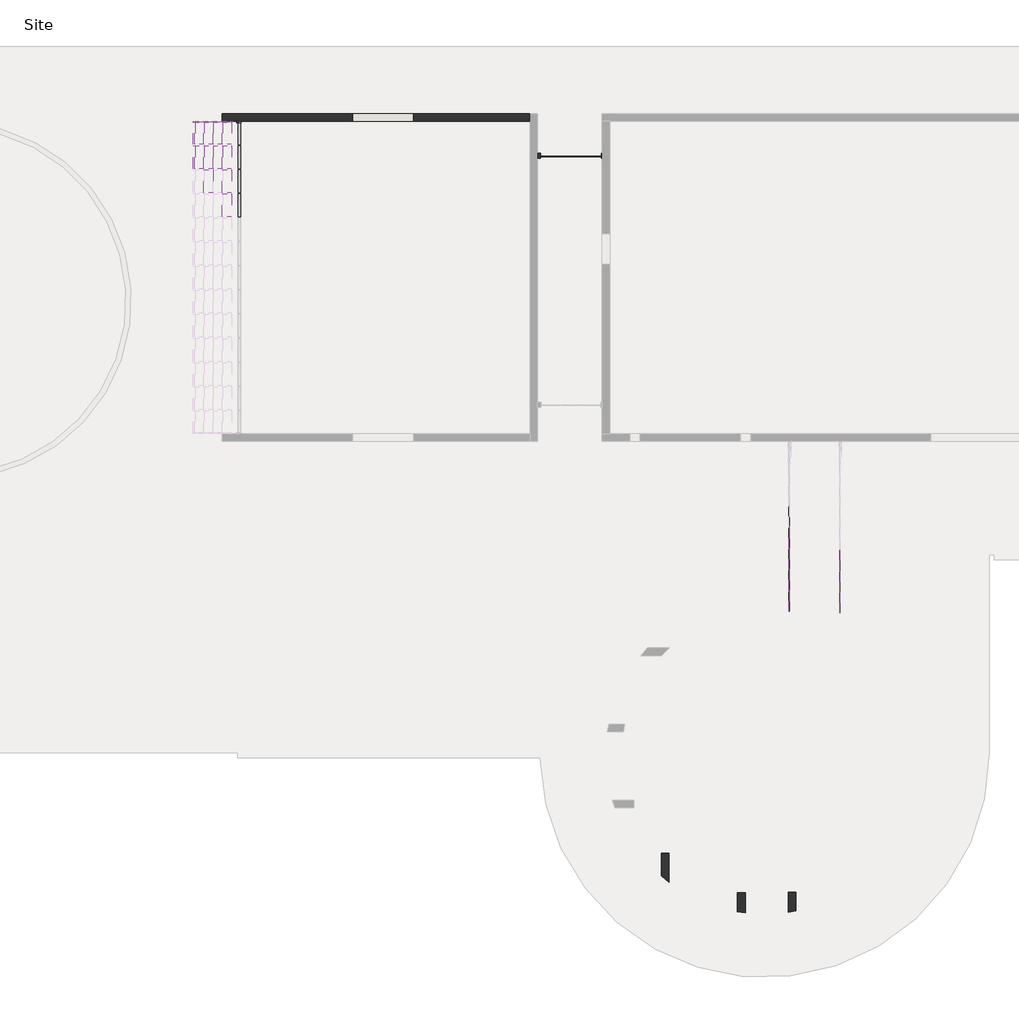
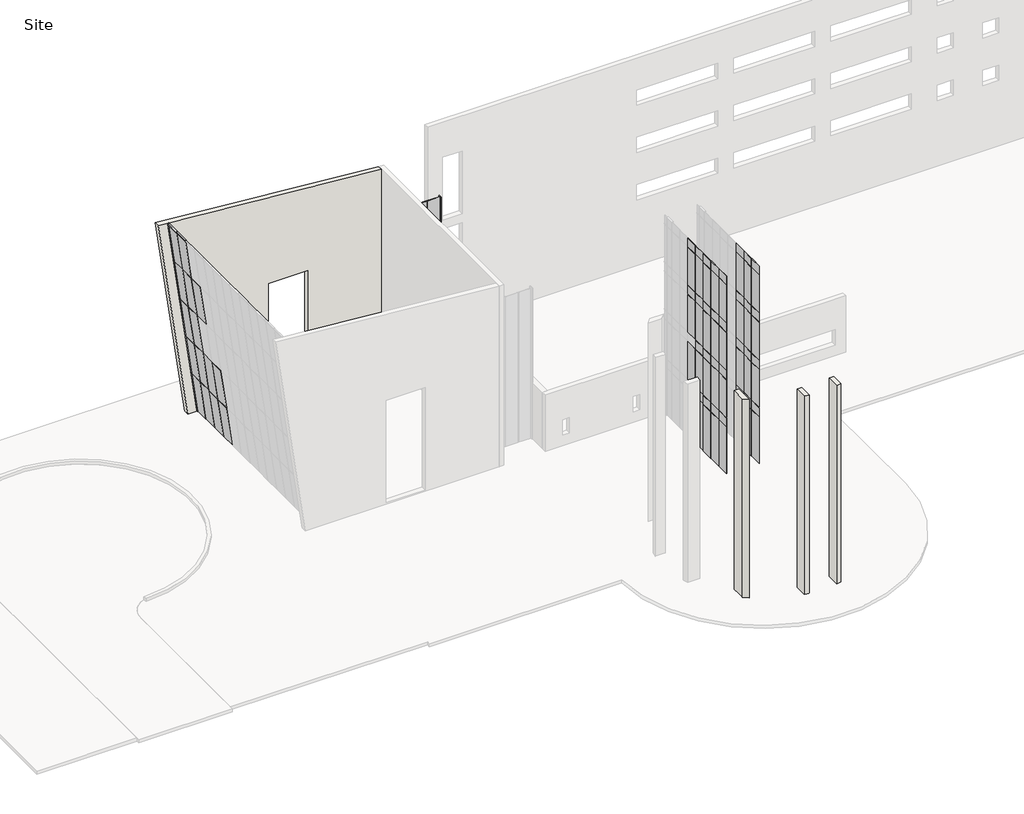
# One storey, part 2 of 4: 80 plates, 7 members, 6 walls.
"""IFC4 building model written with IfcOpenShell, lengths in millimetres."""

import ifcopenshell
import ifcopenshell.guid

model = None  # the IFC model being written
_history = None  # IfcOwnerHistory: only IFC2X3 demands one
_inside = {}  # id of a spatial element -> (the spatial element, [elements in it])
_under = {}  # id of a project, library or spatial element -> (it, [spatial elements below it])
_declared = {}  # id of a project -> (the project, [libraries it declares])
_typed = {}  # id of a type object -> (the type object, [elements of that type])
_made_of = {}  # id of a material, layer set ... -> (it, [elements and type objects made of it])


def new_model(schema):
    """Start an empty IFC model of exactly this schema.

    Asked for "IFC4X3", IfcOpenShell would pick the latest addendum, in which some entities
    have other attributes; the version numbers below select the first issue.
    IFC2X3 requires an IfcOwnerHistory on every rooted entity: one is made here for all.
    """
    global model, _history
    if schema == "IFC4X3":
        model = ifcopenshell.file(schema_version=(4, 3, 0, 0))
    else:
        model = ifcopenshell.file(schema=schema)
    _inside.clear()
    _under.clear()
    _declared.clear()
    _typed.clear()
    _made_of.clear()
    _history = None
    if model.schema == "IFC2X3":
        org = make("IfcOrganization", Name="unknown")
        user = make(
            "IfcPersonAndOrganization",
            ThePerson=make("IfcPerson", FamilyName="unknown"),
            TheOrganization=org,
        )
        app = make(
            "IfcApplication",
            ApplicationDeveloper=org,
            Version="unknown",
            ApplicationFullName="unknown",
            ApplicationIdentifier="unknown",
        )
        _history = make(
            "IfcOwnerHistory",
            OwningUser=user,
            OwningApplication=app,
            ChangeAction="ADDED",
            CreationDate=0,
        )
    return model


def make(cls, **values):
    """One entity of the class cls with the attributes given. An attribute that is None is left unset."""
    return model.create_entity(
        cls, **{name: value for name, value in values.items() if value is not None}
    )


def rooted(cls, **values):
    """An entity with a GlobalId (a new one), such as an element, a storey or a relation."""
    return make(cls, GlobalId=ifcopenshell.guid.new(), OwnerHistory=_history, **values)


def si_unit(unit_type, name, prefix=None):
    """IfcSIUnit, for example si_unit("LENGTHUNIT", "METRE", prefix="MILLI")."""
    return make("IfcSIUnit", UnitType=unit_type, Prefix=prefix, Name=name)


def assignment(units):
    """IfcUnitAssignment: the units of a project."""
    return None if units is None else make("IfcUnitAssignment", Units=units)


def point(xyz):
    """IfcCartesianPoint."""
    return None if xyz is None else make("IfcCartesianPoint", Coordinates=xyz)


def direction(xyz):
    """IfcDirection."""
    return None if xyz is None else make("IfcDirection", DirectionRatios=xyz)


def frame(location, z_axis=None, x_axis=None):
    """IfcAxis2Placement3D, a coordinate frame: its origin and axes. An axis left out is left unset."""
    return make(
        "IfcAxis2Placement3D",
        Location=point(location),
        Axis=direction(z_axis),
        RefDirection=direction(x_axis),
    )


def frame_2d(location, x_axis=None):
    """IfcAxis2Placement2D, a coordinate frame in the plane: its origin and x axis."""
    return make(
        "IfcAxis2Placement2D", Location=point(location), RefDirection=direction(x_axis)
    )


def origin():
    """The frame at (0, 0, 0) with its axes left unset."""
    return frame((0.0, 0.0, 0.0))


def origin_with_axes():
    """The frame at (0, 0, 0) with the z axis (0, 0, 1) and the x axis (1, 0, 0) written out."""
    return frame((0.0, 0.0, 0.0), z_axis=(0.0, 0.0, 1.0), x_axis=(1.0, 0.0, 0.0))


def place(relative_to, where):
    """IfcLocalPlacement: puts the frame where relative to a parent placement (None: the world)."""
    return make(
        "IfcLocalPlacement", PlacementRelTo=relative_to, RelativePlacement=where
    )


def context(
    kind, dimensions, precision=None, world=None, true_north=None, identifier=None
):
    """IfcGeometricRepresentationContext, for example the 3D "Model" context."""
    return make(
        "IfcGeometricRepresentationContext",
        ContextIdentifier=identifier,
        ContextType=kind,
        CoordinateSpaceDimension=dimensions,
        Precision=precision,
        WorldCoordinateSystem=world,
        TrueNorth=true_north,
    )


def project(units=None, contexts=None):
    """IfcProject with its units and contexts."""
    return rooted(
        "IfcProject",
        Name="project",
        RepresentationContexts=contexts,
        UnitsInContext=assignment(units),
    )


def spatial(cls, under=None, at=None, **own):
    """A site, building, storey or space (cls), placed at a placement, below another one or the project."""
    s = rooted(cls, ObjectPlacement=at, **own)
    if under is not None:
        _under.setdefault(under.id(), (under, []))[1].append(s)
    return s


def polyline(points):
    """IfcPolyline through the points."""
    return make("IfcPolyline", Points=[point(p) for p in points])


def circle_curve(where, radius):
    """IfcCircle in the frame where."""
    return make("IfcCircle", Position=where, Radius=radius)


def trimmed(basis, trim1, trim2, sense, master):
    """IfcTrimmedCurve: the piece of a basis curve between two trims."""
    return make(
        "IfcTrimmedCurve",
        BasisCurve=basis,
        Trim1=trim1,
        Trim2=trim2,
        SenseAgreement=sense,
        MasterRepresentation=master,
    )


def segment(curve, same_sense, transition):
    """IfcCompositeCurveSegment."""
    return make(
        "IfcCompositeCurveSegment",
        Transition=transition,
        SameSense=same_sense,
        ParentCurve=curve,
    )


def composite_curve(segments, self_intersect=None):
    """IfcCompositeCurve: segments joined end to end."""
    return make("IfcCompositeCurve", Segments=segments, SelfIntersect=self_intersect)


def outline(outer, holes=None, kind="AREA"):
    """IfcArbitraryClosedProfileDef: a profile drawn as a closed curve; with holes, ...WithVoids."""
    if holes is None:
        return make("IfcArbitraryClosedProfileDef", ProfileType=kind, OuterCurve=outer)
    return make(
        "IfcArbitraryProfileDefWithVoids",
        ProfileType=kind,
        OuterCurve=outer,
        InnerCurves=holes,
    )


def extrude(swept, where, along, depth):
    """IfcExtrudedAreaSolid: the profile swept, set in the frame where, extruded along a direction by depth."""
    return make(
        "IfcExtrudedAreaSolid",
        SweptArea=swept,
        Position=where,
        ExtrudedDirection=direction(along),
        Depth=depth,
    )


def shape(context_of_items, identifier, shape_type, items):
    """IfcShapeRepresentation: the items that make up one representation, for example the "Body"."""
    return make(
        "IfcShapeRepresentation",
        ContextOfItems=context_of_items,
        RepresentationIdentifier=identifier,
        RepresentationType=shape_type,
        Items=items,
    )


def source(mapping_origin, context_of_items, identifier, shape_type, items):
    """IfcRepresentationMap: a shape defined once, which mapped items show again and again."""
    return make(
        "IfcRepresentationMap",
        MappingOrigin=mapping_origin,
        MappedRepresentation=shape(context_of_items, identifier, shape_type, items),
    )


def transform(
    local_origin,
    x_axis=None,
    y_axis=None,
    z_axis=None,
    scale=None,
    scale2=None,
    scale3=None,
    uniform=True,
):
    """IfcCartesianTransformationOperator3D, or its non-uniform kind. x_axis, y_axis, z_axis: its Axis1, 2, 3."""
    if uniform:
        return make(
            "IfcCartesianTransformationOperator3D",
            Axis1=direction(x_axis),
            Axis2=direction(y_axis),
            LocalOrigin=point(local_origin),
            Scale=scale,
            Axis3=direction(z_axis),
        )
    return make(
        "IfcCartesianTransformationOperator3DnonUniform",
        Axis1=direction(x_axis),
        Axis2=direction(y_axis),
        LocalOrigin=point(local_origin),
        Scale=scale,
        Axis3=direction(z_axis),
        Scale2=scale2,
        Scale3=scale3,
    )


def mapped(mapping_source, mapping_target):
    """IfcMappedItem: shows the shape of a source again, moved by a transform."""
    return make(
        "IfcMappedItem", MappingSource=mapping_source, MappingTarget=mapping_target
    )


def made_of(thing, what):
    """Note that an element or type object is made of a material, layer set ...; save() writes the relation."""
    if what is not None:
        _made_of.setdefault(what.id(), (what, []))[1].append(thing)
    return thing


def element(
    cls,
    number,
    at=None,
    inside=None,
    cuts=None,
    type_object=None,
    material=None,
    context=None,
    identifier="Body",
    shape_type=None,
    held_by="IfcProductDefinitionShape",
    body=None,
    shapes=None,
    **own,
):
    """One element of the class cls, such as IfcWall. Its Tag is "e" and its number.

    at: its placement. inside: the storey or other place that contains it. cuts: it is an
    opening in that element (IfcRelVoidsElement). A single representation is given by context,
    identifier, shape_type and body (its items); several are given by shapes. held_by: the class
    of the entity that holds the representations. save() writes the other relations.
    """
    e = rooted(cls, Tag="e%d" % number, ObjectPlacement=at, **own)
    if body is not None:
        shapes = [shape(context, identifier, shape_type, body)]
    if shapes is not None:
        e.Representation = make(held_by, Representations=shapes)
    if inside is not None:
        _inside.setdefault(inside.id(), (inside, []))[1].append(e)
    if cuts is not None:
        rooted(
            "IfcRelVoidsElement", RelatingBuildingElement=cuts, RelatedOpeningElement=e
        )
    if type_object is not None:
        _typed.setdefault(type_object.id(), (type_object, []))[1].append(e)
    return made_of(e, material)


def aggregate(whole, parts):
    """IfcRelAggregates: a whole, such as a stair, and the parts it consists of."""
    return rooted("IfcRelAggregates", RelatingObject=whole, RelatedObjects=parts)


def save(model, path):
    """Write the relations noted so far, then the file.

    IfcRelAggregates (storeys below a building ...), IfcRelContainedInSpatialStructure (elements
    in a storey), IfcRelDefinesByType, IfcRelAssociatesMaterial and IfcRelDeclares: one each for
    every whole, place, type object, material and project.
    """
    for whole, parts in _under.values():
        aggregate(whole, parts)
    for where, things in _inside.values():
        rooted(
            "IfcRelContainedInSpatialStructure",
            RelatedElements=things,
            RelatingStructure=where,
        )
    for kind, things in _typed.values():
        rooted("IfcRelDefinesByType", RelatedObjects=things, RelatingType=kind)
    for what, things in _made_of.values():
        rooted("IfcRelAssociatesMaterial", RelatedObjects=things, RelatingMaterial=what)
    for by, libraries in _declared.values():
        rooted("IfcRelDeclares", RelatingContext=by, RelatedDefinitions=libraries)
    model.write(path)


def member_f8a9089e(model_context):
    return source(origin(), model_context, "Body", "SweptSolid", [
        extrude(outline(polyline([(0.0, 63.5), (0.0, -63.5), (-63.5, -63.5), (-63.5, 63.5), (0.0, 63.5)])), frame((0.0, 0.0, -1320.067308), z_axis=(0.0, 0.0, 1.0), x_axis=(1.0, 0.0, 0.0)), (0.0, 0.0, 1.0), 1320.067308),
    ])


def member_5e02c13a(model_context):
    return source(origin(), model_context, "Body", "SweptSolid", [
        extrude(outline(polyline([(0.0, 63.5), (0.0, -63.5), (-63.5, -63.5), (-63.5, 63.5), (0.0, 63.5)])), frame((0.0, 0.0, -1383.5673076), z_axis=(0.0, 0.0, 1.0), x_axis=(1.0, 0.0, 0.0)), (0.0, 0.0, 1.0), 1383.5673076),
    ])


def member_50cd645d(model_context):
    return source(origin(), model_context, "Body", "SweptSolid", [
        extrude(outline(polyline([(0.0, 63.5), (0.0, -63.5), (-63.5, -63.5), (-63.5, 63.5), (0.0, 63.5)])), frame((0.0, 0.0, -4003.5335741), z_axis=(0.0, 0.0, 1.0), x_axis=(1.0, 0.0, 0.0)), (0.0, 0.0, 1.0), 4003.5335741),
    ])


def member_5d333a65(model_context):
    return source(origin(), model_context, "Body", "SweptSolid", [
        extrude(outline(polyline([(0.0, 63.5), (0.0, -63.5), (-63.5, -63.5), (-63.5, 63.5), (0.0, 63.5)])), frame((0.0, 0.0, -3971.7835741), z_axis=(0.0, 0.0, 1.0), x_axis=(1.0, 0.0, 0.0)), (0.0, 0.0, 1.0), 3971.7835741),
    ])


def system_panel_glazed_908aa4c7(model_context):
    return source(origin(), model_context, "Body", "SweptSolid", [
        extrude(outline(polyline([(593.725, 19.05), (-593.725, 19.05), (-593.725, 44.45), (593.725, 44.45), (593.725, 19.05)])), origin_with_axes(), (0.0, 0.0, 1.0), 4629.15),
    ])


def system_panel_glazed_38880ecf(model_context):
    return source(origin(), model_context, "Body", "SweptSolid", [
        extrude(outline(polyline([(587.8744819, 19.05), (-587.8744819, 19.05), (-587.8744819, 44.45), (587.8744819, 44.45), (587.8744819, 19.05)])), origin_with_axes(), (0.0, 0.0, 1.0), 4629.15),
    ])


def system_panel_glazed_26f8e022(model_context):
    return source(origin(), model_context, "Body", "SweptSolid", [
        extrude(outline(polyline([(603.7494819, 19.05), (-603.7494819, 19.05), (-603.7494819, 44.45), (603.7494819, 44.45), (603.7494819, 19.05)])), origin_with_axes(), (0.0, 0.0, 1.0), 4629.15),
    ])


def system_panel_glazed_31d10065(model_context):
    return source(origin(), model_context, "Body", "SweptSolid", [
        extrude(outline(polyline([(609.6, 19.05), (-609.6, 19.05), (-609.6, 44.45), (609.6, 44.45), (609.6, 19.05)])), origin_with_axes(), (0.0, 0.0, 1.0), 4629.15),
    ])


def system_panel_glazed_d00c2bb3(model_context):
    return source(origin(), model_context, "Body", "SweptSolid", [
        extrude(outline(polyline([(609.5367635, 19.05), (-609.5367635, 19.05), (-609.5367635, 44.45), (609.5367635, 44.45), (609.5367635, 19.05)])), origin_with_axes(), (0.0, 0.0, 1.0), 15087.6),
    ])


def system_panel_glazed_c11227ff(model_context):
    return source(origin(), model_context, "Body", "SweptSolid", [
        extrude(outline(polyline([(593.725, 19.05), (-593.725, 19.05), (-593.725, 44.45), (593.725, 44.45), (593.725, 19.05)])), origin_with_axes(), (0.0, 0.0, 1.0), 3746.5),
    ])


def system_panel_glazed_2b3d2baa(model_context):
    return source(origin(), model_context, "Body", "SweptSolid", [
        extrude(outline(polyline([(609.6, 19.05), (-609.6, 19.05), (-609.6, 44.45), (609.6, 44.45), (609.6, 19.05)])), origin_with_axes(), (0.0, 0.0, 1.0), 3746.5),
    ])


def system_panel_glazed_00a161e3(model_context):
    return source(origin(), model_context, "Body", "SweptSolid", [
        extrude(outline(polyline([(593.725, 19.05), (-593.725, 19.05), (-593.725, 44.45), (593.725, 44.45), (593.725, 19.05)])), origin_with_axes(), (0.0, 0.0, 1.0), 850.9),
    ])


def system_panel_glazed_8fe7ab7d(model_context):
    return source(origin(), model_context, "Body", "SweptSolid", [
        extrude(outline(polyline([(609.6, 19.05), (-609.6, 19.05), (-609.6, 44.45), (609.6, 44.45), (609.6, 19.05)])), origin_with_axes(), (0.0, 0.0, 1.0), 850.9),
    ])


def system_panel_glazed_2ccc015e(model_context):
    return source(origin(), model_context, "Body", "SweptSolid", [
        extrude(outline(polyline([(593.725, 19.05), (-593.725, 19.05), (-593.725, 44.45), (593.725, 44.45), (593.725, 19.05)])), origin_with_axes(), (0.0, 0.0, 1.0), 819.15),
    ])


def system_panel_glazed_636dec6d(model_context):
    return source(origin(), model_context, "Body", "SweptSolid", [
        extrude(outline(polyline([(609.6, 19.05), (-609.6, 19.05), (-609.6, 44.45), (609.6, 44.45), (609.6, 19.05)])), origin_with_axes(), (0.0, 0.0, 1.0), 819.15),
    ])


def system_panel_glazed_4a693619(model_context):
    return source(origin(), model_context, "Body", "SweptSolid", [
        extrude(outline(polyline([(587.8744819, 19.05), (-587.8744819, 19.05), (-587.8744819, 44.45), (587.8744819, 44.45), (587.8744819, 19.05)])), origin_with_axes(), (0.0, 0.0, 1.0), 3746.5),
    ])


def system_panel_glazed_35bb093a(model_context):
    return source(origin(), model_context, "Body", "SweptSolid", [
        extrude(outline(polyline([(603.7494819, 19.05), (-603.7494819, 19.05), (-603.7494819, 44.45), (603.7494819, 44.45), (603.7494819, 19.05)])), origin_with_axes(), (0.0, 0.0, 1.0), 3746.5),
    ])


def system_panel_glazed_f91df05e(model_context):
    return source(origin(), model_context, "Body", "SweptSolid", [
        extrude(outline(polyline([(660.033654, 19.05), (-660.033654, 19.05), (-660.033654, 44.45), (660.033654, 44.45), (660.033654, 19.05)])), origin_with_axes(), (0.0, 0.0, 1.0), 3908.2835741),
    ])


def system_panel_glazed_78b5b18d(model_context):
    return source(origin(), model_context, "Body", "SweptSolid", [
        extrude(outline(polyline([(691.7836538, 19.05), (-691.7836538, 19.05), (-691.7836538, 44.45), (691.7836538, 44.45), (691.7836538, 19.05)])), origin_with_axes(), (0.0, 0.0, 1.0), 3908.2835741),
    ])


def system_panel_metal_panel_ca084d4b(model_context):
    return source(origin(), model_context, "Body", "SweptSolid", [
        extrude(outline(polyline([(587.8744819, 19.05), (-587.8744819, 19.05), (-587.8744819, 44.45), (587.8744819, 44.45), (587.8744819, 19.05)])), origin_with_axes(), (0.0, 0.0, 1.0), 819.15),
    ])


def system_panel_metal_panel_947f48db(model_context):
    return source(origin(), model_context, "Body", "SweptSolid", [
        extrude(outline(polyline([(603.7494819, 19.05), (-603.7494819, 19.05), (-603.7494819, 44.45), (603.7494819, 44.45), (603.7494819, 19.05)])), origin_with_axes(), (0.0, 0.0, 1.0), 819.15),
    ])


def system_panel_metal_panel_f9c2a482(model_context):
    return source(origin(), model_context, "Body", "SweptSolid", [
        extrude(outline(polyline([(587.8744819, 19.05), (-587.8744819, 19.05), (-587.8744819, 44.45), (587.8744819, 44.45), (587.8744819, 19.05)])), origin_with_axes(), (0.0, 0.0, 1.0), 850.9),
    ])


def system_panel_metal_panel_dcd9a435(model_context):
    return source(origin(), model_context, "Body", "SweptSolid", [
        extrude(outline(polyline([(603.7494819, 19.05), (-603.7494819, 19.05), (-603.7494819, 44.45), (603.7494819, 44.45), (603.7494819, 19.05)])), origin_with_axes(), (0.0, 0.0, 1.0), 850.9),
    ])


model = new_model("IFC4")

# Units and contexts
model_context = context("Model", 3, world=origin())
ifc_project = project(units=[si_unit("LENGTHUNIT", "METRE", prefix="MILLI")], contexts=[model_context])

# Site, building, storey
site = spatial("IfcSite", under=ifc_project)
building = spatial("IfcBuilding", under=site)
storey = spatial("IfcBuildingStorey", under=building, Name="Site", Elevation=-152.4)

# Members
placement = place(None, origin())
member_shape = member_f8a9089e(model_context)
element("IfcMember", 1, ObjectType="Rectangular Mullion1 : 2.5\" x 5\" rectangular", at=placement, inside=storey, context=model_context, shape_type="MappedRepresentation", body=[
    mapped(member_shape, transform((-27908.8595656, 55983.1320811, 19574.3667708), x_axis=(-0.13917310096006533, 0.0, 0.9902680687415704), y_axis=(-0.9902680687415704, 0.0, -0.13917310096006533), z_axis=(0.0, -1.0, 0.0))),
])
member_2_shape = member_5e02c13a(model_context)
element("IfcMember", 2, ObjectType="Rectangular Mullion1 : 2.5\" x 5\" rectangular", at=placement, inside=storey, context=model_context, shape_type="MappedRepresentation", body=[
    mapped(member_2_shape, transform((-27908.8595656, 54536.0647734, 19574.3667708), x_axis=(-0.13917310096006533, 0.0, 0.9902680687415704), y_axis=(-0.9902680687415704, 0.0, -0.13917310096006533), z_axis=(0.0, -1.0, 0.0))),
])
member_3_shape = member_50cd645d(model_context)
element("IfcMember", 3, ObjectType="Rectangular Mullion1 : 2.5\" x 5\" rectangular", at=placement, inside=storey, context=model_context, shape_type="MappedRepresentation", body=[
    mapped(member_3_shape, transform((-27908.8595656, 57366.699389, 19574.3667708), x_axis=(0.0, 1.0, 0.0), y_axis=(-0.9902680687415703, 0.0, -0.13917310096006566), z_axis=(-0.13917310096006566, 0.0, 0.9902680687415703))),
])
element("IfcMember", 4, ObjectType="Rectangular Mullion1 : 2.5\" x 5\" rectangular", at=placement, inside=storey, context=model_context, shape_type="MappedRepresentation", body=[
    mapped(member_3_shape, transform((-25693.3790742, 57366.699389, 3810.4039622), x_axis=(0.0, 1.0, 0.0), y_axis=(-0.9902680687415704, 0.0, -0.13917310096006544), z_axis=(-0.1391731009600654, 0.0, 0.9902680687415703))),
])
member_4_shape = member_5d333a65(model_context)
element("IfcMember", 5, ObjectType="Rectangular Mullion1 : 2.5\" x 5\" rectangular", at=placement, inside=storey, context=model_context, shape_type="MappedRepresentation", body=[
    mapped(member_4_shape, transform((-26246.1445106, 57366.699389, 7743.5344115), x_axis=(0.0, 1.0, 0.0), y_axis=(-0.9902680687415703, 0.0, -0.13917310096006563), z_axis=(-0.1391731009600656, 0.0, 0.9902680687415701))),
])
element("IfcMember", 6, ObjectType="Rectangular Mullion1 : 2.5\" x 5\" rectangular", at=placement, inside=storey, context=model_context, shape_type="MappedRepresentation", body=[
    mapped(member_4_shape, transform((-26798.9099469, 57366.699389, 11676.6648609), x_axis=(0.0, 1.0, 0.0), y_axis=(-0.9902680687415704, 0.0, -0.13917310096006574), z_axis=(-0.13917310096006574, 0.0, 0.9902680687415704))),
])
element("IfcMember", 7, ObjectType="Rectangular Mullion1 : 2.5\" x 5\" rectangular", at=placement, inside=storey, context=model_context, shape_type="MappedRepresentation", body=[
    mapped(member_4_shape, transform((-27351.6753833, 57366.699389, 15609.7953102), x_axis=(0.0, 1.0, 0.0), y_axis=(-0.9902680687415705, 0.0, -0.13917310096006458), z_axis=(-0.13917310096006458, 0.0, 0.9902680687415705))),
])

# Plates
system_panel_glazed_shape = system_panel_glazed_908aa4c7(model_context)
element("IfcPlate", 8, ObjectType="System Panel : Glazed", at=placement, inside=storey, context=model_context, shape_type="MappedRepresentation", body=[
    mapped(system_panel_glazed_shape, transform((10878.8276119, 28482.136889, -88.9), x_axis=(0.0, 1.0, 0.0), y_axis=(-1.0, 0.0, 0.0), z_axis=(0.0, 0.0, 1.0))),
])
system_panel_glazed_2_shape = system_panel_glazed_38880ecf(model_context)
element("IfcPlate", 9, ObjectType="System Panel : Glazed", at=placement, inside=storey, context=model_context, shape_type="MappedRepresentation", body=[
    mapped(system_panel_glazed_2_shape, transform((7830.8276119, 28569.8946611, -88.9), x_axis=(0.0, 1.0, 0.0), y_axis=(-1.0, 0.0, 0.0), z_axis=(0.0, 0.0, 1.0))),
])
system_panel_glazed_3_shape = system_panel_glazed_26f8e022(model_context)
element("IfcPlate", 10, ObjectType="System Panel : Glazed", at=placement, inside=storey, context=model_context, shape_type="MappedRepresentation", body=[
    mapped(system_panel_glazed_3_shape, transform((7830.8276119, 33638.015516, -88.9), x_axis=(0.0, 1.0, 0.0), y_axis=(-1.0, 0.0, 0.0), z_axis=(0.0, 0.0, 1.0))),
])
element("IfcPlate", 11, ObjectType="System Panel : Glazed", at=placement, inside=storey, context=model_context, shape_type="MappedRepresentation", body=[
    mapped(system_panel_glazed_3_shape, transform((7830.8276119, 31096.0175885, -88.9), x_axis=(0.0, 1.0, 0.0), y_axis=(-1.0, 0.0, 0.0), z_axis=(0.0, 0.0, 1.0))),
])
element("IfcPlate", 12, ObjectType="System Panel : Glazed", at=placement, inside=storey, context=model_context, shape_type="MappedRepresentation", body=[
    mapped(system_panel_glazed_3_shape, transform((7830.8276119, 32367.0165522, -88.9), x_axis=(0.0, 1.0, 0.0), y_axis=(-1.0, 0.0, 0.0), z_axis=(0.0, 0.0, 1.0))),
])
element("IfcPlate", 13, ObjectType="System Panel : Glazed", at=placement, inside=storey, context=model_context, shape_type="MappedRepresentation", body=[
    mapped(system_panel_glazed_3_shape, transform((7830.8276119, 29825.0186248, -88.9), x_axis=(0.0, 1.0, 0.0), y_axis=(-1.0, 0.0, 0.0), z_axis=(0.0, 0.0, 1.0))),
])
system_panel_glazed_4_shape = system_panel_glazed_31d10065(model_context)
element("IfcPlate", 14, ObjectType="System Panel : Glazed", at=placement, inside=storey, context=model_context, shape_type="MappedRepresentation", body=[
    mapped(system_panel_glazed_4_shape, transform((10878.8276119, 31031.661889, -88.9), x_axis=(0.0, 1.0, 0.0), y_axis=(-1.0, 0.0, 0.0), z_axis=(0.0, 0.0, 1.0))),
])
element("IfcPlate", 15, ObjectType="System Panel : Glazed", at=placement, inside=storey, context=model_context, shape_type="MappedRepresentation", body=[
    mapped(system_panel_glazed_4_shape, transform((10878.8276119, 29748.961889, -88.9), x_axis=(0.0, 1.0, 0.0), y_axis=(-1.0, 0.0, 0.0), z_axis=(0.0, 0.0, 1.0))),
])
system_panel_glazed_5_shape = system_panel_glazed_d00c2bb3(model_context)
element("IfcPlate", 16, ObjectType="System Panel : Glazed", at=placement, inside=storey, context=model_context, shape_type="MappedRepresentation", body=[
    mapped(system_panel_glazed_5_shape, transform((-4081.74698, 55307.711889, -152.4), x_axis=(-1.0, 0.0, 0.0), y_axis=(0.0, -1.0, 0.0), z_axis=(0.0, 0.0, 1.0))),
])
element("IfcPlate", 17, ObjectType="System Panel : Glazed", at=placement, inside=storey, context=model_context, shape_type="MappedRepresentation", body=[
    mapped(system_panel_glazed_5_shape, transform((-6519.8940341, 55307.711889, -152.4), x_axis=(-1.0, 0.0, 0.0), y_axis=(0.0, -1.0, 0.0), z_axis=(0.0, 0.0, 1.0))),
])
element("IfcPlate", 18, ObjectType="System Panel : Glazed", at=placement, inside=storey, context=model_context, shape_type="MappedRepresentation", body=[
    mapped(system_panel_glazed_5_shape, transform((-5300.8205071, 55307.711889, -152.4), x_axis=(-1.0, 0.0, 0.0), y_axis=(0.0, -1.0, 0.0), z_axis=(0.0, 0.0, 1.0))),
])
system_panel_glazed_6_shape = system_panel_glazed_c11227ff(model_context)
element("IfcPlate", 19, ObjectType="System Panel : Glazed", at=placement, inside=storey, context=model_context, shape_type="MappedRepresentation", body=[
    mapped(system_panel_glazed_6_shape, transform((10878.8276119, 28482.136889, 14966.95), x_axis=(0.0, 1.0, 0.0), y_axis=(-1.0, 0.0, 0.0), z_axis=(0.0, 0.0, 1.0))),
])
element("IfcPlate", 20, ObjectType="System Panel : Glazed", at=placement, inside=storey, context=model_context, shape_type="MappedRepresentation", body=[
    mapped(system_panel_glazed_6_shape, transform((10878.8276119, 28482.136889, 10242.55), x_axis=(0.0, 1.0, 0.0), y_axis=(-1.0, 0.0, 0.0), z_axis=(0.0, 0.0, 1.0))),
])
element("IfcPlate", 21, ObjectType="System Panel : Glazed", at=placement, inside=storey, context=model_context, shape_type="MappedRepresentation", body=[
    mapped(system_panel_glazed_6_shape, transform((10878.8276119, 28482.136889, 5518.15), x_axis=(0.0, 1.0, 0.0), y_axis=(-1.0, 0.0, 0.0), z_axis=(0.0, 0.0, 1.0))),
])
system_panel_glazed_7_shape = system_panel_glazed_2b3d2baa(model_context)
element("IfcPlate", 22, ObjectType="System Panel : Glazed", at=placement, inside=storey, context=model_context, shape_type="MappedRepresentation", body=[
    mapped(system_panel_glazed_7_shape, transform((10878.8276119, 29748.961889, 14966.95), x_axis=(0.0, 1.0, 0.0), y_axis=(-1.0, 0.0, 0.0), z_axis=(0.0, 0.0, 1.0))),
])
element("IfcPlate", 23, ObjectType="System Panel : Glazed", at=placement, inside=storey, context=model_context, shape_type="MappedRepresentation", body=[
    mapped(system_panel_glazed_7_shape, transform((10878.8276119, 31031.661889, 14966.95), x_axis=(0.0, 1.0, 0.0), y_axis=(-1.0, 0.0, 0.0), z_axis=(0.0, 0.0, 1.0))),
])
element("IfcPlate", 24, ObjectType="System Panel : Glazed", at=placement, inside=storey, context=model_context, shape_type="MappedRepresentation", body=[
    mapped(system_panel_glazed_7_shape, transform((10878.8276119, 29748.961889, 10242.55), x_axis=(0.0, 1.0, 0.0), y_axis=(-1.0, 0.0, 0.0), z_axis=(0.0, 0.0, 1.0))),
])
element("IfcPlate", 25, ObjectType="System Panel : Glazed", at=placement, inside=storey, context=model_context, shape_type="MappedRepresentation", body=[
    mapped(system_panel_glazed_7_shape, transform((10878.8276119, 31031.661889, 10242.55), x_axis=(0.0, 1.0, 0.0), y_axis=(-1.0, 0.0, 0.0), z_axis=(0.0, 0.0, 1.0))),
])
element("IfcPlate", 26, ObjectType="System Panel : Glazed", at=placement, inside=storey, context=model_context, shape_type="MappedRepresentation", body=[
    mapped(system_panel_glazed_7_shape, transform((10878.8276119, 29748.961889, 5518.15), x_axis=(0.0, 1.0, 0.0), y_axis=(-1.0, 0.0, 0.0), z_axis=(0.0, 0.0, 1.0))),
])
element("IfcPlate", 27, ObjectType="System Panel : Glazed", at=placement, inside=storey, context=model_context, shape_type="MappedRepresentation", body=[
    mapped(system_panel_glazed_7_shape, transform((10878.8276119, 31031.661889, 5518.15), x_axis=(0.0, 1.0, 0.0), y_axis=(-1.0, 0.0, 0.0), z_axis=(0.0, 0.0, 1.0))),
])
system_panel_glazed_8_shape = system_panel_glazed_00a161e3(model_context)
element("IfcPlate", 28, ObjectType="System Panel : Glazed", at=placement, inside=storey, context=model_context, shape_type="MappedRepresentation", body=[
    mapped(system_panel_glazed_8_shape, transform((10878.8276119, 28482.136889, 9328.15), x_axis=(0.0, 1.0, 0.0), y_axis=(-1.0, 0.0, 0.0), z_axis=(0.0, 0.0, 1.0))),
])
element("IfcPlate", 29, ObjectType="System Panel : Glazed", at=placement, inside=storey, context=model_context, shape_type="MappedRepresentation", body=[
    mapped(system_panel_glazed_8_shape, transform((10878.8276119, 28482.136889, 4603.75), x_axis=(0.0, 1.0, 0.0), y_axis=(-1.0, 0.0, 0.0), z_axis=(0.0, 0.0, 1.0))),
])
element("IfcPlate", 30, ObjectType="System Panel : Glazed", at=placement, inside=storey, context=model_context, shape_type="MappedRepresentation", body=[
    mapped(system_panel_glazed_8_shape, transform((10878.8276119, 28482.136889, 14052.55), x_axis=(0.0, 1.0, 0.0), y_axis=(-1.0, 0.0, 0.0), z_axis=(0.0, 0.0, 1.0))),
])
system_panel_glazed_9_shape = system_panel_glazed_8fe7ab7d(model_context)
element("IfcPlate", 31, ObjectType="System Panel : Glazed", at=placement, inside=storey, context=model_context, shape_type="MappedRepresentation", body=[
    mapped(system_panel_glazed_9_shape, transform((10878.8276119, 29748.961889, 9328.15), x_axis=(0.0, 1.0, 0.0), y_axis=(-1.0, 0.0, 0.0), z_axis=(0.0, 0.0, 1.0))),
])
element("IfcPlate", 32, ObjectType="System Panel : Glazed", at=placement, inside=storey, context=model_context, shape_type="MappedRepresentation", body=[
    mapped(system_panel_glazed_9_shape, transform((10878.8276119, 31031.661889, 9328.15), x_axis=(0.0, 1.0, 0.0), y_axis=(-1.0, 0.0, 0.0), z_axis=(0.0, 0.0, 1.0))),
])
element("IfcPlate", 33, ObjectType="System Panel : Glazed", at=placement, inside=storey, context=model_context, shape_type="MappedRepresentation", body=[
    mapped(system_panel_glazed_9_shape, transform((10878.8276119, 29748.961889, 4603.75), x_axis=(0.0, 1.0, 0.0), y_axis=(-1.0, 0.0, 0.0), z_axis=(0.0, 0.0, 1.0))),
])
element("IfcPlate", 34, ObjectType="System Panel : Glazed", at=placement, inside=storey, context=model_context, shape_type="MappedRepresentation", body=[
    mapped(system_panel_glazed_9_shape, transform((10878.8276119, 31031.661889, 4603.75), x_axis=(0.0, 1.0, 0.0), y_axis=(-1.0, 0.0, 0.0), z_axis=(0.0, 0.0, 1.0))),
])
element("IfcPlate", 35, ObjectType="System Panel : Glazed", at=placement, inside=storey, context=model_context, shape_type="MappedRepresentation", body=[
    mapped(system_panel_glazed_9_shape, transform((10878.8276119, 29748.961889, 14052.55), x_axis=(0.0, 1.0, 0.0), y_axis=(-1.0, 0.0, 0.0), z_axis=(0.0, 0.0, 1.0))),
])
element("IfcPlate", 36, ObjectType="System Panel : Glazed", at=placement, inside=storey, context=model_context, shape_type="MappedRepresentation", body=[
    mapped(system_panel_glazed_9_shape, transform((10878.8276119, 31031.661889, 14052.55), x_axis=(0.0, 1.0, 0.0), y_axis=(-1.0, 0.0, 0.0), z_axis=(0.0, 0.0, 1.0))),
])
system_panel_glazed_10_shape = system_panel_glazed_2ccc015e(model_context)
element("IfcPlate", 37, ObjectType="System Panel : Glazed", at=placement, inside=storey, context=model_context, shape_type="MappedRepresentation", body=[
    mapped(system_panel_glazed_10_shape, transform((10878.8276119, 28482.136889, 18776.95), x_axis=(0.0, 1.0, 0.0), y_axis=(-1.0, 0.0, 0.0), z_axis=(0.0, 0.0, 1.0))),
])
system_panel_glazed_11_shape = system_panel_glazed_636dec6d(model_context)
element("IfcPlate", 38, ObjectType="System Panel : Glazed", at=placement, inside=storey, context=model_context, shape_type="MappedRepresentation", body=[
    mapped(system_panel_glazed_11_shape, transform((10878.8276119, 29748.961889, 18776.95), x_axis=(0.0, 1.0, 0.0), y_axis=(-1.0, 0.0, 0.0), z_axis=(0.0, 0.0, 1.0))),
])
element("IfcPlate", 39, ObjectType="System Panel : Glazed", at=placement, inside=storey, context=model_context, shape_type="MappedRepresentation", body=[
    mapped(system_panel_glazed_11_shape, transform((10878.8276119, 31031.661889, 18776.95), x_axis=(0.0, 1.0, 0.0), y_axis=(-1.0, 0.0, 0.0), z_axis=(0.0, 0.0, 1.0))),
])
system_panel_glazed_12_shape = system_panel_glazed_4a693619(model_context)
element("IfcPlate", 40, ObjectType="System Panel : Glazed", at=placement, inside=storey, context=model_context, shape_type="MappedRepresentation", body=[
    mapped(system_panel_glazed_12_shape, transform((7830.8276119, 28569.8946611, 5518.15), x_axis=(0.0, 1.0, 0.0), y_axis=(-1.0, 0.0, 0.0), z_axis=(0.0, 0.0, 1.0))),
])
element("IfcPlate", 41, ObjectType="System Panel : Glazed", at=placement, inside=storey, context=model_context, shape_type="MappedRepresentation", body=[
    mapped(system_panel_glazed_12_shape, transform((7830.8276119, 28569.8946611, 10242.55), x_axis=(0.0, 1.0, 0.0), y_axis=(-1.0, 0.0, 0.0), z_axis=(0.0, 0.0, 1.0))),
])
element("IfcPlate", 42, ObjectType="System Panel : Glazed", at=placement, inside=storey, context=model_context, shape_type="MappedRepresentation", body=[
    mapped(system_panel_glazed_12_shape, transform((7830.8276119, 28569.8946611, 14966.95), x_axis=(0.0, 1.0, 0.0), y_axis=(-1.0, 0.0, 0.0), z_axis=(0.0, 0.0, 1.0))),
])
system_panel_glazed_13_shape = system_panel_glazed_35bb093a(model_context)
element("IfcPlate", 43, ObjectType="System Panel : Glazed", at=placement, inside=storey, context=model_context, shape_type="MappedRepresentation", body=[
    mapped(system_panel_glazed_13_shape, transform((7830.8276119, 29825.0186248, 5518.15), x_axis=(0.0, 1.0, 0.0), y_axis=(-1.0, 0.0, 0.0), z_axis=(0.0, 0.0, 1.0))),
])
element("IfcPlate", 44, ObjectType="System Panel : Glazed", at=placement, inside=storey, context=model_context, shape_type="MappedRepresentation", body=[
    mapped(system_panel_glazed_13_shape, transform((7830.8276119, 31096.0175885, 5518.15), x_axis=(0.0, 1.0, 0.0), y_axis=(-1.0, 0.0, 0.0), z_axis=(0.0, 0.0, 1.0))),
])
element("IfcPlate", 45, ObjectType="System Panel : Glazed", at=placement, inside=storey, context=model_context, shape_type="MappedRepresentation", body=[
    mapped(system_panel_glazed_13_shape, transform((7830.8276119, 32367.0165522, 5518.15), x_axis=(0.0, 1.0, 0.0), y_axis=(-1.0, 0.0, 0.0), z_axis=(0.0, 0.0, 1.0))),
])
element("IfcPlate", 46, ObjectType="System Panel : Glazed", at=placement, inside=storey, context=model_context, shape_type="MappedRepresentation", body=[
    mapped(system_panel_glazed_13_shape, transform((7830.8276119, 33638.015516, 5518.15), x_axis=(0.0, 1.0, 0.0), y_axis=(-1.0, 0.0, 0.0), z_axis=(0.0, 0.0, 1.0))),
])
element("IfcPlate", 47, ObjectType="System Panel : Glazed", at=placement, inside=storey, context=model_context, shape_type="MappedRepresentation", body=[
    mapped(system_panel_glazed_13_shape, transform((7830.8276119, 29825.0186248, 10242.55), x_axis=(0.0, 1.0, 0.0), y_axis=(-1.0, 0.0, 0.0), z_axis=(0.0, 0.0, 1.0))),
])
element("IfcPlate", 48, ObjectType="System Panel : Glazed", at=placement, inside=storey, context=model_context, shape_type="MappedRepresentation", body=[
    mapped(system_panel_glazed_13_shape, transform((7830.8276119, 31096.0175885, 10242.55), x_axis=(0.0, 1.0, 0.0), y_axis=(-1.0, 0.0, 0.0), z_axis=(0.0, 0.0, 1.0))),
])
element("IfcPlate", 49, ObjectType="System Panel : Glazed", at=placement, inside=storey, context=model_context, shape_type="MappedRepresentation", body=[
    mapped(system_panel_glazed_13_shape, transform((7830.8276119, 32367.0165522, 10242.55), x_axis=(0.0, 1.0, 0.0), y_axis=(-1.0, 0.0, 0.0), z_axis=(0.0, 0.0, 1.0))),
])
element("IfcPlate", 50, ObjectType="System Panel : Glazed", at=placement, inside=storey, context=model_context, shape_type="MappedRepresentation", body=[
    mapped(system_panel_glazed_13_shape, transform((7830.8276119, 33638.015516, 10242.55), x_axis=(0.0, 1.0, 0.0), y_axis=(-1.0, 0.0, 0.0), z_axis=(0.0, 0.0, 1.0))),
])
element("IfcPlate", 51, ObjectType="System Panel : Glazed", at=placement, inside=storey, context=model_context, shape_type="MappedRepresentation", body=[
    mapped(system_panel_glazed_13_shape, transform((7830.8276119, 29825.0186248, 14966.95), x_axis=(0.0, 1.0, 0.0), y_axis=(-1.0, 0.0, 0.0), z_axis=(0.0, 0.0, 1.0))),
])
element("IfcPlate", 52, ObjectType="System Panel : Glazed", at=placement, inside=storey, context=model_context, shape_type="MappedRepresentation", body=[
    mapped(system_panel_glazed_13_shape, transform((7830.8276119, 31096.0175885, 14966.95), x_axis=(0.0, 1.0, 0.0), y_axis=(-1.0, 0.0, 0.0), z_axis=(0.0, 0.0, 1.0))),
])
element("IfcPlate", 53, ObjectType="System Panel : Glazed", at=placement, inside=storey, context=model_context, shape_type="MappedRepresentation", body=[
    mapped(system_panel_glazed_13_shape, transform((7830.8276119, 32367.0165522, 14966.95), x_axis=(0.0, 1.0, 0.0), y_axis=(-1.0, 0.0, 0.0), z_axis=(0.0, 0.0, 1.0))),
])
element("IfcPlate", 54, ObjectType="System Panel : Glazed", at=placement, inside=storey, context=model_context, shape_type="MappedRepresentation", body=[
    mapped(system_panel_glazed_13_shape, transform((7830.8276119, 33638.015516, 14966.95), x_axis=(0.0, 1.0, 0.0), y_axis=(-1.0, 0.0, 0.0), z_axis=(0.0, 0.0, 1.0))),
])
system_panel_glazed_14_shape = system_panel_glazed_f91df05e(model_context)
element("IfcPlate", 55, ObjectType="System Panel : Glazed", at=placement, inside=storey, context=model_context, shape_type="MappedRepresentation", body=[
    mapped(system_panel_glazed_14_shape, transform((-25145.0323838, 56643.165735, -91.285476), x_axis=(0.0, -1.0, 0.0), y_axis=(0.9902680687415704, 0.0, 0.13917310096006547), z_axis=(-0.13917310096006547, 0.0, 0.9902680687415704))),
])
element("IfcPlate", 56, ObjectType="System Panel : Glazed", at=placement, inside=storey, context=model_context, shape_type="MappedRepresentation", body=[
    mapped(system_panel_glazed_14_shape, transform((-25697.7978202, 56643.165735, 3841.8449733), x_axis=(0.0, -1.0, 0.0), y_axis=(0.9902680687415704, 0.0, 0.13917310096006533), z_axis=(-0.13917310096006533, 0.0, 0.9902680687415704))),
])
element("IfcPlate", 57, ObjectType="System Panel : Glazed", at=placement, inside=storey, context=model_context, shape_type="MappedRepresentation", body=[
    mapped(system_panel_glazed_14_shape, transform((-26250.5632565, 56643.165735, 7774.9754227), x_axis=(0.0, -1.0, 0.0), y_axis=(0.9902680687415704, 0.0, 0.13917310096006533), z_axis=(-0.13917310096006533, 0.0, 0.9902680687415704))),
])
element("IfcPlate", 58, ObjectType="System Panel : Glazed", at=placement, inside=storey, context=model_context, shape_type="MappedRepresentation", body=[
    mapped(system_panel_glazed_14_shape, transform((-26803.3286929, 56643.165735, 11708.105872), x_axis=(0.0, -1.0, 0.0), y_axis=(0.9902680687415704, 0.0, 0.13917310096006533), z_axis=(-0.13917310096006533, 0.0, 0.9902680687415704))),
])
element("IfcPlate", 59, ObjectType="System Panel : Glazed", at=placement, inside=storey, context=model_context, shape_type="MappedRepresentation", body=[
    mapped(system_panel_glazed_14_shape, transform((-27356.0941292, 56643.165735, 15641.2363214), x_axis=(0.0, -1.0, 0.0), y_axis=(0.9902680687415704, 0.0, 0.13917310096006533), z_axis=(-0.13917310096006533, 0.0, 0.9902680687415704))),
])
system_panel_glazed_15_shape = system_panel_glazed_78b5b18d(model_context)
element("IfcPlate", 60, ObjectType="System Panel : Glazed", at=placement, inside=storey, context=model_context, shape_type="MappedRepresentation", body=[
    mapped(system_panel_glazed_15_shape, transform((-25145.0323838, 55227.8484272, -91.285476), x_axis=(0.0, -1.0, 0.0), y_axis=(0.9902680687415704, 0.0, 0.13917310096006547), z_axis=(-0.13917310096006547, 0.0, 0.9902680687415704))),
])
element("IfcPlate", 61, ObjectType="System Panel : Glazed", at=placement, inside=storey, context=model_context, shape_type="MappedRepresentation", body=[
    mapped(system_panel_glazed_15_shape, transform((-25145.0323838, 53780.7811196, -91.285476), x_axis=(0.0, -1.0, 0.0), y_axis=(0.9902680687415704, 0.0, 0.13917310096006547), z_axis=(-0.13917310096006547, 0.0, 0.9902680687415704))),
])
element("IfcPlate", 62, ObjectType="System Panel : Glazed", at=placement, inside=storey, context=model_context, shape_type="MappedRepresentation", body=[
    mapped(system_panel_glazed_15_shape, transform((-25145.0323838, 52333.7138119, -91.285476), x_axis=(0.0, -1.0, 0.0), y_axis=(0.9902680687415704, 0.0, 0.13917310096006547), z_axis=(-0.13917310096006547, 0.0, 0.9902680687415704))),
])
element("IfcPlate", 63, ObjectType="System Panel : Glazed", at=placement, inside=storey, context=model_context, shape_type="MappedRepresentation", body=[
    mapped(system_panel_glazed_15_shape, transform((-25697.7978202, 55227.8484272, 3841.8449733), x_axis=(0.0, -1.0, 0.0), y_axis=(0.9902680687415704, 0.0, 0.13917310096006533), z_axis=(-0.13917310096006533, 0.0, 0.9902680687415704))),
])
element("IfcPlate", 64, ObjectType="System Panel : Glazed", at=placement, inside=storey, context=model_context, shape_type="MappedRepresentation", body=[
    mapped(system_panel_glazed_15_shape, transform((-25697.7978202, 53780.7811196, 3841.8449733), x_axis=(0.0, -1.0, 0.0), y_axis=(0.9902680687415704, 0.0, 0.13917310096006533), z_axis=(-0.13917310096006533, 0.0, 0.9902680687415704))),
])
element("IfcPlate", 65, ObjectType="System Panel : Glazed", at=placement, inside=storey, context=model_context, shape_type="MappedRepresentation", body=[
    mapped(system_panel_glazed_15_shape, transform((-25697.7978202, 52333.7138119, 3841.8449733), x_axis=(0.0, -1.0, 0.0), y_axis=(0.9902680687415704, 0.0, 0.13917310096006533), z_axis=(-0.13917310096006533, 0.0, 0.9902680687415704))),
])
element("IfcPlate", 66, ObjectType="System Panel : Glazed", at=placement, inside=storey, context=model_context, shape_type="MappedRepresentation", body=[
    mapped(system_panel_glazed_15_shape, transform((-26250.5632565, 55227.8484272, 7774.9754227), x_axis=(0.0, -1.0, 0.0), y_axis=(0.9902680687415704, 0.0, 0.13917310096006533), z_axis=(-0.13917310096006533, 0.0, 0.9902680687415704))),
])
element("IfcPlate", 67, ObjectType="System Panel : Glazed", at=placement, inside=storey, context=model_context, shape_type="MappedRepresentation", body=[
    mapped(system_panel_glazed_15_shape, transform((-26803.3286929, 55227.8484272, 11708.105872), x_axis=(0.0, -1.0, 0.0), y_axis=(0.9902680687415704, 0.0, 0.13917310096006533), z_axis=(-0.13917310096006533, 0.0, 0.9902680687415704))),
])
element("IfcPlate", 68, ObjectType="System Panel : Glazed", at=placement, inside=storey, context=model_context, shape_type="MappedRepresentation", body=[
    mapped(system_panel_glazed_15_shape, transform((-26803.3286929, 53780.7811196, 11708.105872), x_axis=(0.0, -1.0, 0.0), y_axis=(0.9902680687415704, 0.0, 0.13917310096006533), z_axis=(-0.13917310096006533, 0.0, 0.9902680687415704))),
])
element("IfcPlate", 69, ObjectType="System Panel : Glazed", at=placement, inside=storey, context=model_context, shape_type="MappedRepresentation", body=[
    mapped(system_panel_glazed_15_shape, transform((-27356.0941292, 55227.8484272, 15641.2363214), x_axis=(0.0, -1.0, 0.0), y_axis=(0.9902680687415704, 0.0, 0.13917310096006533), z_axis=(-0.13917310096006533, 0.0, 0.9902680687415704))),
])
system_panel_metal_panel_shape = system_panel_metal_panel_ca084d4b(model_context)
element("IfcPlate", 70, ObjectType="System Panel : Metal Panel", at=placement, inside=storey, context=model_context, shape_type="MappedRepresentation", body=[
    mapped(system_panel_metal_panel_shape, transform((7830.8276119, 28569.8946611, 18776.95), x_axis=(0.0, 1.0, 0.0), y_axis=(-1.0, 0.0, 0.0), z_axis=(0.0, 0.0, 1.0))),
])
system_panel_metal_panel_2_shape = system_panel_metal_panel_947f48db(model_context)
element("IfcPlate", 71, ObjectType="System Panel : Metal Panel", at=placement, inside=storey, context=model_context, shape_type="MappedRepresentation", body=[
    mapped(system_panel_metal_panel_2_shape, transform((7830.8276119, 29825.0186248, 18776.95), x_axis=(0.0, 1.0, 0.0), y_axis=(-1.0, 0.0, 0.0), z_axis=(0.0, 0.0, 1.0))),
])
element("IfcPlate", 72, ObjectType="System Panel : Metal Panel", at=placement, inside=storey, context=model_context, shape_type="MappedRepresentation", body=[
    mapped(system_panel_metal_panel_2_shape, transform((7830.8276119, 31096.0175885, 18776.95), x_axis=(0.0, 1.0, 0.0), y_axis=(-1.0, 0.0, 0.0), z_axis=(0.0, 0.0, 1.0))),
])
element("IfcPlate", 73, ObjectType="System Panel : Metal Panel", at=placement, inside=storey, context=model_context, shape_type="MappedRepresentation", body=[
    mapped(system_panel_metal_panel_2_shape, transform((7830.8276119, 32367.0165522, 18776.95), x_axis=(0.0, 1.0, 0.0), y_axis=(-1.0, 0.0, 0.0), z_axis=(0.0, 0.0, 1.0))),
])
element("IfcPlate", 74, ObjectType="System Panel : Metal Panel", at=placement, inside=storey, context=model_context, shape_type="MappedRepresentation", body=[
    mapped(system_panel_metal_panel_2_shape, transform((7830.8276119, 33638.015516, 18776.95), x_axis=(0.0, 1.0, 0.0), y_axis=(-1.0, 0.0, 0.0), z_axis=(0.0, 0.0, 1.0))),
])
system_panel_metal_panel_3_shape = system_panel_metal_panel_f9c2a482(model_context)
element("IfcPlate", 75, ObjectType="System Panel : Metal Panel", at=placement, inside=storey, context=model_context, shape_type="MappedRepresentation", body=[
    mapped(system_panel_metal_panel_3_shape, transform((7830.8276119, 28569.8946611, 14052.55), x_axis=(0.0, 1.0, 0.0), y_axis=(-1.0, 0.0, 0.0), z_axis=(0.0, 0.0, 1.0))),
])
element("IfcPlate", 76, ObjectType="System Panel : Metal Panel", at=placement, inside=storey, context=model_context, shape_type="MappedRepresentation", body=[
    mapped(system_panel_metal_panel_3_shape, transform((7830.8276119, 28569.8946611, 9328.15), x_axis=(0.0, 1.0, 0.0), y_axis=(-1.0, 0.0, 0.0), z_axis=(0.0, 0.0, 1.0))),
])
element("IfcPlate", 77, ObjectType="System Panel : Metal Panel", at=placement, inside=storey, context=model_context, shape_type="MappedRepresentation", body=[
    mapped(system_panel_metal_panel_3_shape, transform((7830.8276119, 28569.8946611, 4603.75), x_axis=(0.0, 1.0, 0.0), y_axis=(-1.0, 0.0, 0.0), z_axis=(0.0, 0.0, 1.0))),
])
system_panel_metal_panel_4_shape = system_panel_metal_panel_dcd9a435(model_context)
element("IfcPlate", 78, ObjectType="System Panel : Metal Panel", at=placement, inside=storey, context=model_context, shape_type="MappedRepresentation", body=[
    mapped(system_panel_metal_panel_4_shape, transform((7830.8276119, 29825.0186248, 14052.55), x_axis=(0.0, 1.0, 0.0), y_axis=(-1.0, 0.0, 0.0), z_axis=(0.0, 0.0, 1.0))),
])
element("IfcPlate", 79, ObjectType="System Panel : Metal Panel", at=placement, inside=storey, context=model_context, shape_type="MappedRepresentation", body=[
    mapped(system_panel_metal_panel_4_shape, transform((7830.8276119, 31096.0175885, 14052.55), x_axis=(0.0, 1.0, 0.0), y_axis=(-1.0, 0.0, 0.0), z_axis=(0.0, 0.0, 1.0))),
])
element("IfcPlate", 80, ObjectType="System Panel : Metal Panel", at=placement, inside=storey, context=model_context, shape_type="MappedRepresentation", body=[
    mapped(system_panel_metal_panel_4_shape, transform((7830.8276119, 32367.0165522, 14052.55), x_axis=(0.0, 1.0, 0.0), y_axis=(-1.0, 0.0, 0.0), z_axis=(0.0, 0.0, 1.0))),
])
element("IfcPlate", 81, ObjectType="System Panel : Metal Panel", at=placement, inside=storey, context=model_context, shape_type="MappedRepresentation", body=[
    mapped(system_panel_metal_panel_4_shape, transform((7830.8276119, 33638.015516, 14052.55), x_axis=(0.0, 1.0, 0.0), y_axis=(-1.0, 0.0, 0.0), z_axis=(0.0, 0.0, 1.0))),
])
element("IfcPlate", 82, ObjectType="System Panel : Metal Panel", at=placement, inside=storey, context=model_context, shape_type="MappedRepresentation", body=[
    mapped(system_panel_metal_panel_4_shape, transform((7830.8276119, 29825.0186248, 9328.15), x_axis=(0.0, 1.0, 0.0), y_axis=(-1.0, 0.0, 0.0), z_axis=(0.0, 0.0, 1.0))),
])
element("IfcPlate", 83, ObjectType="System Panel : Metal Panel", at=placement, inside=storey, context=model_context, shape_type="MappedRepresentation", body=[
    mapped(system_panel_metal_panel_4_shape, transform((7830.8276119, 31096.0175885, 9328.15), x_axis=(0.0, 1.0, 0.0), y_axis=(-1.0, 0.0, 0.0), z_axis=(0.0, 0.0, 1.0))),
])
element("IfcPlate", 84, ObjectType="System Panel : Metal Panel", at=placement, inside=storey, context=model_context, shape_type="MappedRepresentation", body=[
    mapped(system_panel_metal_panel_4_shape, transform((7830.8276119, 32367.0165522, 9328.15), x_axis=(0.0, 1.0, 0.0), y_axis=(-1.0, 0.0, 0.0), z_axis=(0.0, 0.0, 1.0))),
])
element("IfcPlate", 85, ObjectType="System Panel : Metal Panel", at=placement, inside=storey, context=model_context, shape_type="MappedRepresentation", body=[
    mapped(system_panel_metal_panel_4_shape, transform((7830.8276119, 29825.0186248, 4603.75), x_axis=(0.0, 1.0, 0.0), y_axis=(-1.0, 0.0, 0.0), z_axis=(0.0, 0.0, 1.0))),
])
element("IfcPlate", 86, ObjectType="System Panel : Metal Panel", at=placement, inside=storey, context=model_context, shape_type="MappedRepresentation", body=[
    mapped(system_panel_metal_panel_4_shape, transform((7830.8276119, 31096.0175885, 4603.75), x_axis=(0.0, 1.0, 0.0), y_axis=(-1.0, 0.0, 0.0), z_axis=(0.0, 0.0, 1.0))),
])
element("IfcPlate", 87, ObjectType="System Panel : Metal Panel", at=placement, inside=storey, context=model_context, shape_type="MappedRepresentation", body=[
    mapped(system_panel_metal_panel_4_shape, transform((7830.8276119, 32367.0165522, 4603.75), x_axis=(0.0, 1.0, 0.0), y_axis=(-1.0, 0.0, 0.0), z_axis=(0.0, 0.0, 1.0))),
])

# Walls
element("IfcWall", 88, ObjectType="Stone on CMU", at=placement, inside=storey, context=model_context, shape_type="SweptSolid", body=[
    extrude(outline(composite_curve([segment(polyline([(140.6953567, 12095.1176395), (140.6953567, 13452.4789718), (594.7203567, 13452.4789718), (594.7203567, 11730.5482318)]), True, "CONTINUOUS"), segment(trimmed(circle_curve(frame_2d((6332.5692024, 19341.311889)), 9531.35), [point((594.7203567, 11730.5482318))], [point((140.6953567, 12095.1176395))], False, "CARTESIAN"), True, "CONTINUOUS")], self_intersect=False)), frame((0.0, 0.0, -152.4), z_axis=(0.0, 0.0, 1.0), x_axis=(1.0, 0.0, 0.0)), (0.0, 0.0, 1.0), 19812.0),
])
element("IfcWall", 89, ObjectType="Stone on CMU", at=placement, inside=storey, context=model_context, shape_type="SweptSolid", body=[
    extrude(outline(composite_curve([segment(polyline([(4712.6953567, 9948.6210314), (4712.6953567, 11075.8499375), (5166.7203567, 11075.8499375), (5166.7203567, 9881.5323307)]), True, "CONTINUOUS"), segment(trimmed(circle_curve(frame_2d((6332.5692024, 19341.311889)), 9531.35), [point((5166.7203567, 9881.5323307))], [point((4712.6953567, 9948.6210314))], False, "CARTESIAN"), True, "CONTINUOUS")], self_intersect=False)), frame((0.0, 0.0, -152.4), z_axis=(0.0, 0.0, 1.0), x_axis=(1.0, 0.0, 0.0)), (0.0, 0.0, 1.0), 19812.0),
])
element("IfcWall", 90, ObjectType="Stone on CMU", at=placement, inside=storey, context=model_context, shape_type="SweptSolid", body=[
    extrude(outline(composite_curve([segment(polyline([(7760.6953567, 9917.5605919), (7760.6953567, 11124.3513783), (8214.7203567, 11124.3513783), (8214.7203567, 9997.6434523)]), True, "CONTINUOUS"), segment(trimmed(circle_curve(frame_2d((6332.5692024, 19341.311889)), 9531.35), [point((8214.7203567, 9997.6434523))], [point((7760.6953567, 9917.5605919))], False, "CARTESIAN"), True, "CONTINUOUS")], self_intersect=False)), frame((0.0, 0.0, -152.4), z_axis=(0.0, 0.0, 1.0), x_axis=(1.0, 0.0, 0.0)), (0.0, 0.0, 1.0), 19812.0),
])
element("IfcWall", 91, ObjectType="Stone on CMU", at=placement, inside=storey, context=model_context, shape_type="SweptSolid", body=[
    extrude(outline(polyline([(-152.4, -26050.8432976), (-152.4, -7761.2557976), (17898.2153222, -7761.2557976), (19654.3186785, -28834.4960734), (-152.4, -26050.8432976)]), holes=[polyline([(10210.8, -14747.8432976), (0.0, -14747.8432976), (0.0, -18405.4432976), (10210.8, -18405.4432976), (10210.8, -14747.8432976)])]), frame((0.0, 57366.699389, 0.0), z_axis=(0.0, 1.0, 0.0), x_axis=(0.0, 0.0, 1.0)), (0.0, 0.0, 1.0), 454.025),
])
element("IfcWall", 92, ObjectType="a_Mtl panel on Mtl stud", at=placement, inside=storey, context=model_context, shape_type="SweptSolid", body=[
    extrude(outline(polyline([(-3472.2102165, 55463.286889), (-3419.8227165, 55463.286889), (-3419.8227165, 55152.136889), (-3472.2102165, 55152.136889), (-3472.2102165, 55463.286889)])), frame((0.0, 0.0, -152.4), z_axis=(0.0, 0.0, 1.0), x_axis=(1.0, 0.0, 0.0)), (0.0, 0.0, 1.0), 15087.6),
])
element("IfcWall", 93, ObjectType="a_Mtl panel on Mtl stud", at=placement, inside=storey, context=model_context, shape_type="SweptSolid", body=[
    extrude(outline(polyline([(-7307.2307976, 55463.286889), (-7129.4307976, 55463.286889), (-7129.4307976, 55152.136889), (-7307.2307976, 55152.136889), (-7307.2307976, 55463.286889)])), frame((0.0, 0.0, -152.4), z_axis=(0.0, 0.0, 1.0), x_axis=(1.0, 0.0, 0.0)), (0.0, 0.0, 1.0), 15087.6),
])

save(model, "model.ifc")
